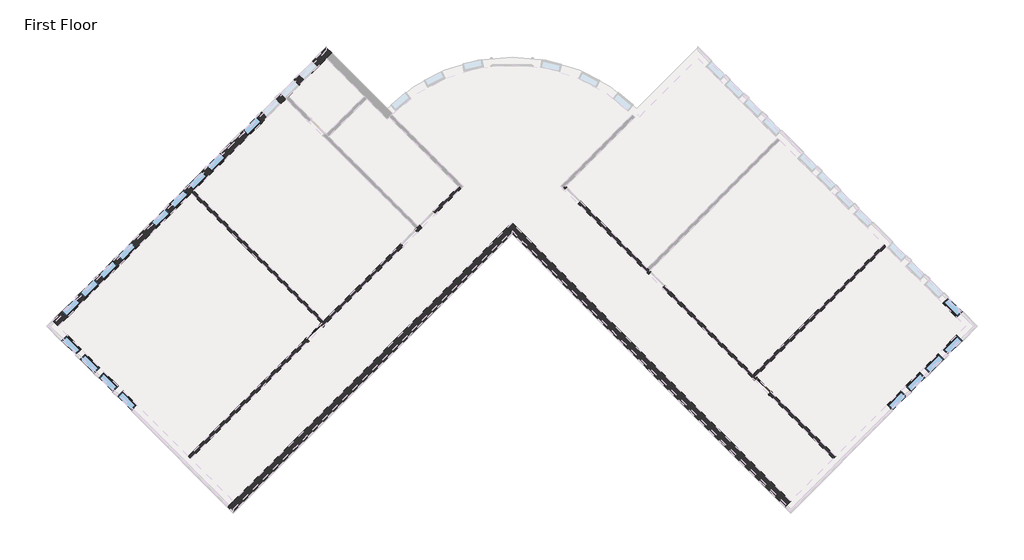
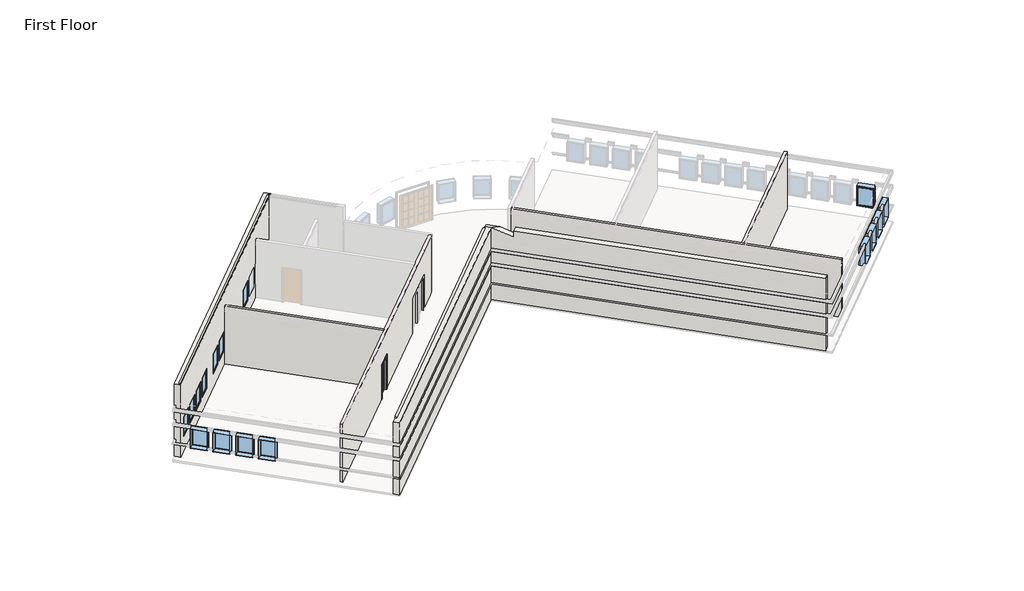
# One storey, part 1 of 3: 18 windows, 7 walls, 2 doors.
"""IFC4 building model written with IfcOpenShell, lengths in millimetres."""

from ifc_helpers import new_model, si_unit, origin, origin_with_axes, place, context, project, spatial, polyline, outline, extrude, faceted_brep, transform, mapped, element, save
from components import door_b81abb0e, door_5f5b55da, window_15c49d37, window_0e2fc6ce

model = new_model("IFC4")

# Units and contexts
model_context = context("Model", 3, world=origin())
ifc_project = project(units=[si_unit("LENGTHUNIT", "METRE", prefix="MILLI")], contexts=[model_context])

# Site, building, storey
site = spatial("IfcSite", under=ifc_project)
building = spatial("IfcBuilding", under=site)
storey = spatial("IfcBuildingStorey", under=building, Name="First Floor", Elevation=0.0)

# Doors
placement = place(None, origin())
door_shape = door_b81abb0e(model_context)
element("IfcDoor", 1, ObjectType="Single-Glass 1 : 36\" x 84\"", at=placement, inside=storey, context=model_context, shape_type="MappedRepresentation", body=[
    mapped(door_shape, transform((-12027.7718255, -1647.4849877, 0.0), x_axis=(0.7071067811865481, 0.7071067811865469, 0.0), y_axis=(-0.7071067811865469, 0.7071067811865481, 0.0), z_axis=(0.0, 0.0, 1.0))),
])
door_2_shape = door_5f5b55da(model_context)
element("IfcDoor", 2, ObjectType="Single-Glass 1 : 36\" x 84\"", at=placement, inside=storey, context=model_context, shape_type="MappedRepresentation", body=[
    mapped(door_2_shape, transform((8770.3835686, -4126.1534594, 0.0), x_axis=(-0.7071067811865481, 0.7071067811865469, 0.0), y_axis=(-0.7071067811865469, -0.7071067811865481, 0.0), z_axis=(0.0, 0.0, 1.0))),
])

# Walls
element("IfcWall", 3, ObjectType="Exterior - Split Face and CMU on Mtl. Stud", at=placement, inside=storey, context=model_context, shape_type="Brep", body=[
    faceted_brep([(10063.54045, -9480.6311716, 0.0), (-2868.0283643, 3450.9376427, 0.0), (-2868.0283643, 3450.9376427, 4454.525), (-2369.6241496, 2952.533428, 4454.525), (-1756.7216693, 2339.6309478, 4165.6), (-1756.7216693, 2339.6309478, 4572.0), (10063.54045, -9480.6311716, 4572.0), (-3117.2304717, 3201.7355354, 4572.0), (-3117.2304717, 3201.7355354, 0.0), (-2868.0283643, 2952.533428, 0.0), (9814.3383427, -9729.833279, 0.0), (9814.3383427, -9729.833279, 1016.0), (-2868.0283643, 2952.533428, 1016.0), (-2933.1352212, 3017.6402849, 1016.0), (-2933.1352212, 3017.6402849, 1085.85), (-2868.0283643, 2952.533428, 1085.85), (9814.3383427, -9729.833279, 1085.85), (9814.3383427, -9729.833279, 2133.6), (-2868.0283643, 2952.533428, 2133.6), (-2933.1352212, 3017.6402849, 2133.6), (-2933.1352212, 3017.6402849, 2336.8), (-2868.0283643, 2952.533428, 2336.8), (9814.3383427, -9729.833279, 2336.8), (9814.3383427, -9729.833279, 3048.0), (-2868.0283643, 2952.533428, 3048.0), (-2933.1352212, 3017.6402849, 3048.0), (-2933.1352212, 3017.6402849, 3251.2), (-2868.0283643, 2952.533428, 3251.2), (9814.3383427, -9729.833279, 3251.2), (9814.3383427, -9729.833279, 4572.0), (-2005.9237767, 2090.4288404, 4572.0), (-2005.9237767, 2090.4288404, 4165.6), (-2868.0283643, 2952.533428, 4572.0), (-3052.1236148, 3266.8423923, 0.0), (9879.4451996, -9664.7264221, 3251.2), (9879.4451996, -9664.7264221, 3048.0), (9879.4451996, -9664.7264221, 2336.8), (9879.4451996, -9664.7264221, 2133.6), (9879.4451996, -9664.7264221, 1085.85), (9879.4451996, -9664.7264221, 1016.0), (9879.4451996, -9664.7264221, 0.0), (-2868.0283643, 3082.7471418, 1085.85), (-2868.0283643, 3082.7471418, 1016.0), (-2868.0283643, 3082.7471418, 2133.6), (-2868.0283643, 3082.7471418, 2336.8), (-2868.0283643, 3082.7471418, 3048.0), (-2868.0283643, 3082.7471418, 3251.2)], [[[0, 1, 2, 3, 4, 5, 6]], [[7, 8, 9, 10, 11, 12, 13, 14, 15, 16, 17, 18, 19, 20, 21, 22, 23, 24, 25, 26, 27, 28, 29, 30, 31, 32]], [[2, 1, 33, 8, 7]], [[0, 6, 29, 28, 34, 35, 23, 22, 36, 37, 17, 16, 38, 39, 11, 10, 40]], [[29, 6, 5, 30]], [[30, 5, 4, 31]], [[31, 4, 3, 32]], [[2, 7, 32, 3]], [[1, 0, 40, 33]], [[40, 10, 9, 8, 33]], [[14, 41, 38, 16, 15]], [[39, 42, 13, 12, 11]], [[41, 42, 39, 38]], [[42, 41, 14, 13]], [[37, 43, 19, 18, 17]], [[20, 44, 36, 22, 21]], [[44, 43, 37, 36]], [[43, 44, 20, 19]], [[35, 45, 25, 24, 23]], [[26, 46, 34, 28, 27]], [[46, 45, 35, 34]], [[45, 46, 26, 25]]]),
])
element("IfcWall", 4, ObjectType="Exterior - Split Face and CMU on Mtl. Stud", at=placement, inside=storey, context=model_context, shape_type="Brep", body=[
    faceted_brep([(-3117.2304717, 3201.7355354, 0.0), (-15799.5971786, -9480.6311716, 0.0), (-16048.799286, -9729.833279, 0.0), (-16048.799286, -9729.833279, 1016.0), (-15983.6924291, -9664.7264221, 1016.0), (-15983.6924291, -9664.7264221, 1085.85), (-16048.799286, -9729.833279, 1085.85), (-16048.799286, -9729.833279, 2133.6), (-15983.6924291, -9664.7264221, 2133.6), (-15983.6924291, -9664.7264221, 2336.8), (-16048.799286, -9729.833279, 2336.8), (-16048.799286, -9729.833279, 3048.0), (-15983.6924291, -9664.7264221, 3048.0), (-15983.6924291, -9664.7264221, 3251.2), (-16048.799286, -9729.833279, 3251.2), (-16048.799286, -9729.833279, 4572.0), (-15799.5971786, -9480.6311716, 4572.0), (-3135.1909839, 3183.7750231, 4572.0), (-3117.2304717, 3201.7355354, 4572.0), (-15799.5971786, -9979.0353863, 0.0), (-2868.0283643, 2952.533428, 0.0), (-2868.0283643, 2952.533428, 1016.0), (-15799.5971786, -9979.0353863, 1016.0), (-15799.5971786, -9979.0353863, 1085.85), (-2868.0283643, 2952.533428, 1085.85), (-2868.0283643, 2952.533428, 2133.6), (-15799.5971786, -9979.0353863, 2133.6), (-15799.5971786, -9979.0353863, 2336.8), (-2868.0283643, 2952.533428, 2336.8), (-2868.0283643, 2952.533428, 3048.0), (-15799.5971786, -9979.0353863, 3048.0), (-15799.5971786, -9979.0353863, 4572.0), (-15799.5971786, -9979.0353863, 3251.2), (-2868.0283643, 2952.533428, 3251.2), (-2868.0283643, 2952.533428, 4572.0), (-2885.9888765, 2934.5729158, 4572.0), (-15864.7040355, -9913.9285294, 0.0), (-2933.1352212, 3017.6402849, 3251.2), (-2933.1352212, 3017.6402849, 3048.0), (-2933.1352212, 3017.6402849, 2336.8), (-2933.1352212, 3017.6402849, 2133.6), (-2933.1352212, 3017.6402849, 1085.85), (-2933.1352212, 3017.6402849, 1016.0), (-2933.1352212, 3017.6402849, 0.0), (-15799.5971786, -9848.8216726, 1085.85), (-15799.5971786, -9848.8216726, 1016.0), (-15799.5971786, -9848.8216726, 2133.6), (-15799.5971786, -9848.8216726, 2336.8), (-15799.5971786, -9848.8216726, 3048.0), (-15799.5971786, -9848.8216726, 3251.2)], [[[0, 1, 2, 3, 4, 5, 6, 7, 8, 9, 10, 11, 12, 13, 14, 15, 16, 17, 18]], [[19, 20, 21, 22]], [[23, 24, 25, 26]], [[27, 28, 29, 30]], [[31, 32, 33, 34, 35]], [[2, 36, 19, 22, 3]], [[6, 23, 26, 7]], [[10, 27, 30, 11]], [[15, 14, 32, 31]], [[0, 18, 34, 33, 37, 38, 29, 28, 39, 40, 25, 24, 41, 42, 21, 20, 43]], [[2, 1, 0, 43, 36]], [[43, 20, 19, 36]], [[5, 44, 41, 24, 23, 6]], [[42, 45, 4, 3, 22, 21]], [[44, 45, 42, 41]], [[45, 44, 5, 4]], [[40, 46, 8, 7, 26, 25]], [[9, 47, 39, 28, 27, 10]], [[47, 46, 40, 39]], [[46, 47, 9, 8]], [[38, 48, 12, 11, 30, 29]], [[13, 49, 37, 33, 32, 14]], [[49, 48, 38, 37]], [[48, 49, 13, 12]], [[15, 31, 35, 34, 18, 17, 16]]]),
    faceted_brep([(-15799.5971786, -9480.6311716, 4689.475), (-3366.432579, 2952.533428, 4689.475), (-3260.200231, 3058.765776, 4639.3965909), (-15799.5971786, -9480.6311716, 4639.3965909), (-15874.9878772, -9556.0218702, 4653.9354839), (-3215.6511819, 2952.533428, 4653.9354839), (-15799.5971786, -9631.4125687, 4653.9354839)], [[[0, 1, 2, 3, 4]], [[2, 1, 5]], [[1, 0, 6, 5]], [[0, 4, 6]], [[6, 3, 2, 5]], [[3, 6, 4]]]),
])
element("IfcWall", 5, ObjectType="Exterior - Split Face and CMU on Mtl. Stud", at=placement, inside=storey, context=model_context, shape_type="Brep", body=[
    faceted_brep([(-23922.2388402, -1357.9895101, 0.0), (-17743.7048466, 4820.5444835, 0.0), (-17633.6967091, 4930.552621, 0.0), (-13359.2125777, 9205.0367523, 0.0), (-13249.2044403, 9315.0448898, 0.0), (-11489.0742405, 11075.1750895, 0.0), (-11239.8721332, 11324.3771969, 0.0), (-11239.8721332, 11324.3771969, 1016.0), (-11304.9789901, 11259.27034, 1016.0), (-11304.9789901, 11259.27034, 1085.85), (-11239.8721332, 11324.3771969, 1085.85), (-11239.8721332, 11324.3771969, 2133.6), (-11304.9789901, 11259.27034, 2133.6), (-11304.9789901, 11259.27034, 2336.8), (-11239.8721332, 11324.3771969, 2336.8), (-11239.8721332, 11324.3771969, 3048.0), (-11304.9789901, 11259.27034, 3048.0), (-11304.9789901, 11259.27034, 3251.2), (-11239.8721332, 11324.3771969, 3251.2), (-11239.8721332, 11324.3771969, 4572.0), (-11489.0742405, 11075.1750895, 4572.0), (-23922.2388402, -1357.9895101, 4572.0), (-23508.0245266, -943.7751965, 914.4), (-23508.0245266, -943.7751965, 2133.6), (-22861.4460859, -297.1967558, 2133.6), (-22861.4460859, -297.1967558, 914.4), (-22645.9199389, -81.6706089, 914.4), (-22645.9199389, -81.6706089, 2133.6), (-21999.3414982, 564.9078318, 2133.6), (-21999.3414982, 564.9078318, 914.4), (-20921.7107637, 1642.5385664, 914.4), (-20921.7107637, 1642.5385664, 2133.6), (-20275.132323, 2289.1170071, 2133.6), (-20275.132323, 2289.1170071, 914.4), (-21783.8153513, 780.4339787, 914.4), (-21783.8153513, 780.4339787, 2133.6), (-21137.2369106, 1427.0124195, 2133.6), (-21137.2369106, 1427.0124195, 914.4), (-11869.3770291, 10694.8723009, 2133.6), (-11869.3770291, 10694.8723009, 914.4), (-12515.9554698, 10048.2938602, 914.4), (-12515.9554698, 10048.2938602, 2133.6), (-12731.4816167, 9832.7677133, 2133.6), (-12731.4816167, 9832.7677133, 914.4), (-13378.0600575, 9186.1892726, 914.4), (-13378.0600575, 9186.1892726, 2133.6), (-13593.5862044, 8970.6631257, 2133.6), (-13593.5862044, 8970.6631257, 914.4), (-14240.1646451, 8324.084685, 914.4), (-14240.1646451, 8324.084685, 2133.6), (-14455.690792, 8108.5585381, 2133.6), (-14455.690792, 8108.5585381, 914.4), (-15102.2692327, 7461.9800974, 914.4), (-15102.2692327, 7461.9800974, 2133.6), (-19359.6176228, 3204.6317073, 914.4), (-19359.6176228, 3204.6317073, 2133.6), (-18713.0391821, 3851.210148, 2133.6), (-18713.0391821, 3851.210148, 914.4), (-18497.5130352, 4066.7362949, 914.4), (-18497.5130352, 4066.7362949, 2133.6), (-17850.9345944, 4713.3147356, 2133.6), (-17850.9345944, 4713.3147356, 914.4), (-17635.4084475, 4928.8408825, 914.4), (-17635.4084475, 4928.8408825, 2133.6), (-16988.8300068, 5575.4193232, 2133.6), (-16988.8300068, 5575.4193232, 914.4), (-16773.3038599, 5790.9454701, 914.4), (-16773.3038599, 5790.9454701, 2133.6), (-16126.7254192, 6437.5239109, 2133.6), (-16126.7254192, 6437.5239109, 914.4), (-11489.0742405, 11573.5793042, 0.0), (-24171.4409475, -1108.7874027, 0.0), (-24171.4409475, -1108.7874027, 1016.0), (-23757.2266339, -694.5730891, 1016.0), (-23757.2266339, -694.5730891, 914.4), (-23110.6481932, -47.9946484, 914.4), (-23110.6481932, -47.9946484, 1016.0), (-22895.1220463, 167.5314985, 1016.0), (-22895.1220463, 167.5314985, 914.4), (-22248.5436056, 814.1099392, 914.4), (-22248.5436056, 814.1099392, 1016.0), (-22033.0174587, 1029.6360861, 1016.0), (-22033.0174587, 1029.6360861, 914.4), (-21386.439018, 1676.2145268, 914.4), (-21386.439018, 1676.2145268, 1016.0), (-21170.9128711, 1891.7406737, 1016.0), (-21170.9128711, 1891.7406737, 914.4), (-20524.3344303, 2538.3191144, 914.4), (-20524.3344303, 2538.3191144, 1016.0), (-19608.8197301, 3453.8338146, 1016.0), (-19608.8197301, 3453.8338146, 914.4), (-18962.2412894, 4100.4122553, 914.4), (-18962.2412894, 4100.4122553, 1016.0), (-18746.7151425, 4315.9384023, 1016.0), (-18746.7151425, 4315.9384023, 914.4), (-18100.1367018, 4962.516843, 914.4), (-18100.1367018, 4962.516843, 1016.0), (-17884.6105549, 5178.0429899, 1016.0), (-17884.6105549, 5178.0429899, 914.4), (-17238.0321142, 5824.6214306, 914.4), (-17238.0321142, 5824.6214306, 1016.0), (-17022.5059673, 6040.1475775, 1016.0), (-17022.5059673, 6040.1475775, 914.4), (-16375.9275266, 6686.7260182, 914.4), (-16375.9275266, 6686.7260182, 1016.0), (-15351.4713401, 7711.1822047, 1016.0), (-15351.4713401, 7711.1822047, 914.4), (-14704.8928993, 8357.7606454, 914.4), (-14704.8928993, 8357.7606454, 1016.0), (-14489.3667524, 8573.2867923, 1016.0), (-14489.3667524, 8573.2867923, 914.4), (-13842.7883117, 9219.8652331, 914.4), (-13842.7883117, 9219.8652331, 1016.0), (-13627.2621648, 9435.39138, 1016.0), (-13627.2621648, 9435.39138, 914.4), (-12980.6837241, 10081.9698207, 914.4), (-12980.6837241, 10081.9698207, 1016.0), (-12765.1575772, 10297.4959676, 1016.0), (-12765.1575772, 10297.4959676, 914.4), (-12118.5791365, 10944.0744083, 914.4), (-12118.5791365, 10944.0744083, 1016.0), (-11489.0742405, 11573.5793042, 1016.0), (-23110.6481932, -47.9946484, 2133.6), (-23757.2266339, -694.5730891, 2133.6), (-23757.2266339, -694.5730891, 2336.8), (-24171.4409475, -1108.7874027, 2336.8), (-24171.4409475, -1108.7874027, 3048.0), (-11489.0742405, 11573.5793042, 3048.0), (-11489.0742405, 11573.5793042, 2336.8), (-12118.5791365, 10944.0744083, 2336.8), (-12118.5791365, 10944.0744083, 2133.6), (-12765.1575772, 10297.4959676, 2133.6), (-12765.1575772, 10297.4959676, 2336.8), (-12980.6837241, 10081.9698207, 2336.8), (-12980.6837241, 10081.9698207, 2133.6), (-13627.2621648, 9435.39138, 2133.6), (-13627.2621648, 9435.39138, 2336.8), (-13842.7883117, 9219.8652331, 2336.8), (-13842.7883117, 9219.8652331, 2133.6), (-14489.3667524, 8573.2867923, 2133.6), (-14489.3667524, 8573.2867923, 2336.8), (-14704.8928993, 8357.7606454, 2336.8), (-14704.8928993, 8357.7606454, 2133.6), (-15351.4713401, 7711.1822047, 2133.6), (-15351.4713401, 7711.1822047, 2336.8), (-16375.9275266, 6686.7260182, 2336.8), (-16375.9275266, 6686.7260182, 2133.6), (-17022.5059673, 6040.1475775, 2133.6), (-17022.5059673, 6040.1475775, 2336.8), (-17238.0321142, 5824.6214306, 2336.8), (-17238.0321142, 5824.6214306, 2133.6), (-17884.6105549, 5178.0429899, 2133.6), (-17884.6105549, 5178.0429899, 2336.8), (-18100.1367018, 4962.516843, 2336.8), (-18100.1367018, 4962.516843, 2133.6), (-18746.7151425, 4315.9384023, 2133.6), (-18746.7151425, 4315.9384023, 2336.8), (-18962.2412894, 4100.4122553, 2336.8), (-18962.2412894, 4100.4122553, 2133.6), (-19608.8197301, 3453.8338146, 2133.6), (-19608.8197301, 3453.8338146, 2336.8), (-20524.3344303, 2538.3191144, 2336.8), (-20524.3344303, 2538.3191144, 2133.6), (-21170.9128711, 1891.7406737, 2133.6), (-21170.9128711, 1891.7406737, 2336.8), (-21386.439018, 1676.2145268, 2336.8), (-21386.439018, 1676.2145268, 2133.6), (-22033.0174587, 1029.6360861, 2133.6), (-22033.0174587, 1029.6360861, 2336.8), (-22248.5436056, 814.1099392, 2336.8), (-22248.5436056, 814.1099392, 2133.6), (-22895.1220463, 167.5314985, 2133.6), (-22895.1220463, 167.5314985, 2336.8), (-23110.6481932, -47.9946484, 2336.8), (-23757.2266339, -694.5730891, 1085.85), (-24171.4409475, -1108.7874027, 1085.85), (-24171.4409475, -1108.7874027, 2133.6), (-23110.6481932, -47.9946484, 1085.85), (-22895.1220463, 167.5314985, 1085.85), (-22248.5436056, 814.1099392, 1085.85), (-22033.0174587, 1029.6360861, 1085.85), (-21170.9128711, 1891.7406737, 1085.85), (-21386.439018, 1676.2145268, 1085.85), (-20524.3344303, 2538.3191144, 1085.85), (-19608.8197301, 3453.8338146, 1085.85), (-12765.1575772, 10297.4959676, 1085.85), (-12980.6837241, 10081.9698207, 1085.85), (-12118.5791365, 10944.0744083, 1085.85), (-11489.0742405, 11573.5793042, 2133.6), (-11489.0742405, 11573.5793042, 1085.85), (-13627.2621648, 9435.39138, 1085.85), (-13842.7883117, 9219.8652331, 1085.85), (-14489.3667524, 8573.2867923, 1085.85), (-14704.8928993, 8357.7606454, 1085.85), (-15351.4713401, 7711.1822047, 1085.85), (-16375.9275266, 6686.7260182, 1085.85), (-18962.2412894, 4100.4122553, 1085.85), (-18746.7151425, 4315.9384023, 1085.85), (-18100.1367018, 4962.516843, 1085.85), (-17884.6105549, 5178.0429899, 1085.85), (-17238.0321142, 5824.6214306, 1085.85), (-17022.5059673, 6040.1475775, 1085.85), (-11489.0742405, 11573.5793042, 4572.0), (-11489.0742405, 11573.5793042, 3251.2), (-24171.4409475, -1108.7874027, 3251.2), (-24171.4409475, -1108.7874027, 4572.0), (-11423.9673837, 11508.4724474, 0.0), (-24106.3340906, -1173.8942596, 0.0), (-24106.3340906, -1173.8942596, 3251.2), (-24106.3340906, -1173.8942596, 3048.0), (-24106.3340906, -1173.8942596, 2336.8), (-24106.3340906, -1173.8942596, 2133.6), (-24106.3340906, -1173.8942596, 1085.85), (-24106.3340906, -1173.8942596, 1016.0), (-23692.119777, -759.679946, 1016.0), (-23692.119777, -759.679946, 1085.85), (-23692.119777, -759.679946, 2133.6), (-23045.5413363, -113.1015053, 2133.6), (-23045.5413363, -113.1015053, 1085.85), (-23045.5413363, -113.1015053, 1016.0), (-22830.0151894, 102.4246416, 1016.0), (-22830.0151894, 102.4246416, 1085.85), (-22830.0151894, 102.4246416, 2133.6), (-22183.4367487, 749.0030823, 2133.6), (-22183.4367487, 749.0030823, 1085.85), (-22183.4367487, 749.0030823, 1016.0), (-21105.8060142, 1826.6338168, 1016.0), (-21105.8060142, 1826.6338168, 1085.85), (-21105.8060142, 1826.6338168, 2133.6), (-20459.2275735, 2473.2122576, 2133.6), (-20459.2275735, 2473.2122576, 1085.85), (-20459.2275735, 2473.2122576, 1016.0), (-21967.9106018, 964.5292292, 1016.0), (-21967.9106018, 964.5292292, 1085.85), (-21967.9106018, 964.5292292, 2133.6), (-21321.3321611, 1611.1076699, 2133.6), (-21321.3321611, 1611.1076699, 1085.85), (-21321.3321611, 1611.1076699, 1016.0), (-12053.4722796, 10878.9675514, 2133.6), (-12053.4722796, 10878.9675514, 1085.85), (-12053.4722796, 10878.9675514, 1016.0), (-12700.0507203, 10232.3891107, 1016.0), (-12700.0507203, 10232.3891107, 1085.85), (-12700.0507203, 10232.3891107, 2133.6), (-12915.5768672, 10016.8629638, 2133.6), (-12915.5768672, 10016.8629638, 1085.85), (-12915.5768672, 10016.8629638, 1016.0), (-13562.1553079, 9370.2845231, 1016.0), (-13562.1553079, 9370.2845231, 1085.85), (-13562.1553079, 9370.2845231, 2133.6), (-13777.6814548, 9154.7583762, 2133.6), (-13777.6814548, 9154.7583762, 1085.85), (-13777.6814548, 9154.7583762, 1016.0), (-14424.2598956, 8508.1799355, 1016.0), (-14424.2598956, 8508.1799355, 1085.85), (-14424.2598956, 8508.1799355, 2133.6), (-14639.7860425, 8292.6537886, 2133.6), (-14639.7860425, 8292.6537886, 1085.85), (-14639.7860425, 8292.6537886, 1016.0), (-15286.3644832, 7646.0753478, 1016.0), (-15286.3644832, 7646.0753478, 1085.85), (-15286.3644832, 7646.0753478, 2133.6), (-19543.7128733, 3388.7269578, 1016.0), (-19543.7128733, 3388.7269578, 1085.85), (-19543.7128733, 3388.7269578, 2133.6), (-18897.1344326, 4035.3053985, 2133.6), (-18897.1344326, 4035.3053985, 1085.85), (-18897.1344326, 4035.3053985, 1016.0), (-18681.6082856, 4250.8315454, 1016.0), (-18681.6082856, 4250.8315454, 1085.85), (-18681.6082856, 4250.8315454, 2133.6), (-18035.0298449, 4897.4099861, 2133.6), (-18035.0298449, 4897.4099861, 1085.85), (-18035.0298449, 4897.4099861, 1016.0), (-17819.503698, 5112.936133, 1016.0), (-17819.503698, 5112.936133, 1085.85), (-17819.503698, 5112.936133, 2133.6), (-17172.9252573, 5759.5145737, 2133.6), (-17172.9252573, 5759.5145737, 1085.85), (-17172.9252573, 5759.5145737, 1016.0), (-16957.3991104, 5975.0407206, 1016.0), (-16957.3991104, 5975.0407206, 1085.85), (-16957.3991104, 5975.0407206, 2133.6), (-16310.8206697, 6621.6191613, 2133.6), (-16310.8206697, 6621.6191613, 1085.85), (-16310.8206697, 6621.6191613, 1016.0), (-11489.0742405, 11443.3655905, 1085.85), (-11489.0742405, 11443.3655905, 1016.0), (-23692.119777, -759.679946, 2133.6), (-23692.119777, -759.679946, 2336.8), (-23045.5413363, -113.1015053, 2133.6), (-23045.5413363, -113.1015053, 2336.8), (-22830.0151894, 102.4246416, 2336.8), (-22830.0151894, 102.4246416, 2133.6), (-22183.4367487, 749.0030823, 2133.6), (-22183.4367487, 749.0030823, 2336.8), (-21967.9106018, 964.5292292, 2336.8), (-21967.9106018, 964.5292292, 2133.6), (-21321.3321611, 1611.1076699, 2133.6), (-21321.3321611, 1611.1076699, 2336.8), (-21105.8060142, 1826.6338168, 2336.8), (-21105.8060142, 1826.6338168, 2133.6), (-20459.2275735, 2473.2122576, 2133.6), (-20459.2275735, 2473.2122576, 2336.8), (-19543.7128733, 3388.7269578, 2336.8), (-19543.7128733, 3388.7269578, 2133.6), (-18897.1344326, 4035.3053985, 2133.6), (-18897.1344326, 4035.3053985, 2336.8), (-18681.6082856, 4250.8315454, 2336.8), (-18681.6082856, 4250.8315454, 2133.6), (-18035.0298449, 4897.4099861, 2133.6), (-18035.0298449, 4897.4099861, 2336.8), (-17819.503698, 5112.936133, 2336.8), (-17819.503698, 5112.936133, 2133.6), (-17172.9252573, 5759.5145737, 2133.6), (-17172.9252573, 5759.5145737, 2336.8), (-16957.3991104, 5975.0407206, 2336.8), (-16957.3991104, 5975.0407206, 2133.6), (-16310.8206697, 6621.6191613, 2133.6), (-16310.8206697, 6621.6191613, 2336.8), (-15286.3644832, 7646.0753478, 2336.8), (-15286.3644832, 7646.0753478, 2133.6), (-14639.7860425, 8292.6537886, 2133.6), (-14639.7860425, 8292.6537886, 2336.8), (-14424.2598956, 8508.1799355, 2336.8), (-14424.2598956, 8508.1799355, 2133.6), (-13777.6814548, 9154.7583762, 2133.6), (-13777.6814548, 9154.7583762, 2336.8), (-13562.1553079, 9370.2845231, 2336.8), (-13562.1553079, 9370.2845231, 2133.6), (-12915.5768672, 10016.8629638, 2133.6), (-12915.5768672, 10016.8629638, 2336.8), (-12700.0507203, 10232.3891107, 2336.8), (-12700.0507203, 10232.3891107, 2133.6), (-12053.4722796, 10878.9675514, 2133.6), (-12053.4722796, 10878.9675514, 2336.8), (-11489.0742405, 11443.3655905, 2133.6), (-11489.0742405, 11443.3655905, 2336.8), (-11489.0742405, 11443.3655905, 3048.0), (-11489.0742405, 11443.3655905, 3251.2)], [[[0, 1, 2, 3, 4, 5, 6, 7, 8, 9, 10, 11, 12, 13, 14, 15, 16, 17, 18, 19, 20, 21], [22, 23, 24, 25], [26, 27, 28, 29], [30, 31, 32, 33], [34, 35, 36, 37], [38, 39, 40, 41], [42, 43, 44, 45], [46, 47, 48, 49], [50, 51, 52, 53], [54, 55, 56, 57], [58, 59, 60, 61], [62, 63, 64, 65], [66, 67, 68, 69]], [[70, 71, 72, 73, 74, 75, 76, 77, 78, 79, 80, 81, 82, 83, 84, 85, 86, 87, 88, 89, 90, 91, 92, 93, 94, 95, 96, 97, 98, 99, 100, 101, 102, 103, 104, 105, 106, 107, 108, 109, 110, 111, 112, 113, 114, 115, 116, 117, 118, 119, 120, 121]], [[122, 123, 124, 125, 126, 127, 128, 129, 130, 131, 132, 133, 134, 135, 136, 137, 138, 139, 140, 141, 142, 143, 144, 145, 146, 147, 148, 149, 150, 151, 152, 153, 154, 155, 156, 157, 158, 159, 160, 161, 162, 163, 164, 165, 166, 167, 168, 169, 170, 171, 172, 173]], [[123, 174, 175, 176]], [[177, 122, 171, 178]], [[179, 170, 167, 180]], [[163, 181, 182, 166]], [[183, 162, 159, 184]], [[131, 185, 186, 134]], [[187, 130, 188, 189]], [[135, 190, 191, 138]], [[139, 192, 193, 142]], [[143, 194, 195, 146]], [[196, 158, 155, 197]], [[198, 154, 151, 199]], [[200, 150, 147, 201]], [[202, 203, 204, 205]], [[6, 206, 70, 121, 7]], [[10, 189, 188, 11]], [[14, 128, 127, 15]], [[19, 18, 203, 202]], [[207, 0, 21, 205, 204, 208, 209, 126, 125, 210, 211, 176, 175, 212, 213, 72, 71]], [[6, 5, 4, 3, 2, 1, 0, 207, 206]], [[207, 71, 70, 206]], [[23, 22, 74, 73, 214, 215, 174, 123, 216]], [[75, 74, 22, 25]], [[25, 24, 217, 122, 177, 218, 219, 76, 75]], [[123, 122, 217, 24, 23, 216]], [[27, 26, 78, 77, 220, 221, 178, 171, 222]], [[79, 78, 26, 29]], [[29, 28, 223, 170, 179, 224, 225, 80, 79]], [[171, 170, 223, 28, 27, 222]], [[31, 30, 86, 85, 226, 227, 181, 163, 228]], [[87, 86, 30, 33]], [[33, 32, 229, 162, 183, 230, 231, 88, 87]], [[163, 162, 229, 32, 31, 228]], [[35, 34, 82, 81, 232, 233, 180, 167, 234]], [[83, 82, 34, 37]], [[37, 36, 235, 166, 182, 236, 237, 84, 83]], [[167, 166, 235, 36, 35, 234]], [[39, 38, 238, 130, 187, 239, 240, 120, 119]], [[40, 39, 119, 118]], [[41, 40, 118, 117, 241, 242, 185, 131, 243]], [[38, 41, 243, 131, 130, 238]], [[43, 42, 244, 134, 186, 245, 246, 116, 115]], [[44, 43, 115, 114]], [[45, 44, 114, 113, 247, 248, 190, 135, 249]], [[42, 45, 249, 135, 134, 244]], [[47, 46, 250, 138, 191, 251, 252, 112, 111]], [[48, 47, 111, 110]], [[49, 48, 110, 109, 253, 254, 192, 139, 255]], [[46, 49, 255, 139, 138, 250]], [[51, 50, 256, 142, 193, 257, 258, 108, 107]], [[52, 51, 107, 106]], [[53, 52, 106, 105, 259, 260, 194, 143, 261]], [[50, 53, 261, 143, 142, 256]], [[55, 54, 90, 89, 262, 263, 184, 159, 264]], [[91, 90, 54, 57]], [[57, 56, 265, 158, 196, 266, 267, 92, 91]], [[159, 158, 265, 56, 55, 264]], [[59, 58, 94, 93, 268, 269, 197, 155, 270]], [[95, 94, 58, 61]], [[61, 60, 271, 154, 198, 272, 273, 96, 95]], [[155, 154, 271, 60, 59, 270]], [[63, 62, 98, 97, 274, 275, 199, 151, 276]], [[99, 98, 62, 65]], [[65, 64, 277, 150, 200, 278, 279, 100, 99]], [[151, 150, 277, 64, 63, 276]], [[67, 66, 102, 101, 280, 281, 201, 147, 282]], [[103, 102, 66, 69]], [[69, 68, 283, 146, 195, 284, 285, 104, 103]], [[147, 146, 283, 68, 67, 282]], [[215, 212, 175, 174]], [[213, 214, 73, 72]], [[212, 215, 214, 213]], [[221, 218, 177, 178]], [[219, 220, 77, 76]], [[218, 221, 220, 219]], [[233, 224, 179, 180]], [[225, 232, 81, 80]], [[224, 233, 232, 225]], [[227, 236, 182, 181]], [[237, 226, 85, 84]], [[236, 227, 226, 237]], [[263, 230, 183, 184]], [[231, 262, 89, 88]], [[230, 263, 262, 231]], [[269, 266, 196, 197]], [[267, 268, 93, 92]], [[266, 269, 268, 267]], [[275, 272, 198, 199]], [[273, 274, 97, 96]], [[272, 275, 274, 273]], [[281, 278, 200, 201]], [[279, 280, 101, 100]], [[278, 281, 280, 279]], [[260, 284, 195, 194]], [[285, 259, 105, 104]], [[284, 260, 259, 285]], [[254, 257, 193, 192]], [[258, 253, 109, 108]], [[257, 254, 253, 258]], [[248, 251, 191, 190]], [[252, 247, 113, 112]], [[251, 248, 247, 252]], [[242, 245, 186, 185]], [[246, 241, 117, 116]], [[245, 242, 241, 246]], [[286, 239, 187, 189, 10, 9]], [[240, 287, 8, 7, 121, 120]], [[239, 286, 287, 240]], [[287, 286, 9, 8]], [[288, 123, 176, 211]], [[124, 289, 210, 125]], [[123, 288, 289, 124]], [[289, 288, 211, 210]], [[290, 122, 173, 291]], [[292, 172, 171, 293]], [[122, 290, 293, 171]], [[290, 291, 292, 293]], [[291, 173, 172, 292]], [[294, 170, 169, 295]], [[296, 168, 167, 297]], [[170, 294, 297, 167]], [[294, 295, 296, 297]], [[295, 169, 168, 296]], [[298, 166, 165, 299]], [[300, 164, 163, 301]], [[166, 298, 301, 163]], [[298, 299, 300, 301]], [[299, 165, 164, 300]], [[302, 162, 161, 303]], [[304, 160, 159, 305]], [[162, 302, 305, 159]], [[302, 303, 304, 305]], [[303, 161, 160, 304]], [[306, 158, 157, 307]], [[308, 156, 155, 309]], [[158, 306, 309, 155]], [[306, 307, 308, 309]], [[307, 157, 156, 308]], [[310, 154, 153, 311]], [[312, 152, 151, 313]], [[154, 310, 313, 151]], [[310, 311, 312, 313]], [[311, 153, 152, 312]], [[314, 150, 149, 315]], [[316, 148, 147, 317]], [[150, 314, 317, 147]], [[314, 315, 316, 317]], [[315, 149, 148, 316]], [[318, 146, 145, 319]], [[320, 144, 143, 321]], [[146, 318, 321, 143]], [[318, 319, 320, 321]], [[319, 145, 144, 320]], [[322, 142, 141, 323]], [[324, 140, 139, 325]], [[142, 322, 325, 139]], [[322, 323, 324, 325]], [[323, 141, 140, 324]], [[326, 138, 137, 327]], [[328, 136, 135, 329]], [[138, 326, 329, 135]], [[326, 327, 328, 329]], [[327, 137, 136, 328]], [[330, 134, 133, 331]], [[332, 132, 131, 333]], [[134, 330, 333, 131]], [[330, 331, 332, 333]], [[331, 133, 132, 332]], [[334, 130, 129, 335]], [[130, 334, 336, 12, 11, 188]], [[334, 335, 337, 336]], [[335, 129, 128, 14, 13, 337]], [[336, 337, 13, 12]], [[209, 338, 16, 15, 127, 126]], [[17, 339, 208, 204, 203, 18]], [[339, 338, 209, 208]], [[338, 339, 17, 16]], [[21, 20, 19, 202, 205]]]),
    faceted_brep([(-11489.0742405, 11075.1750895, 4689.475), (-23922.2388402, -1357.9895101, 4689.475), (-23922.2388402, -1357.9895101, 4639.3965909), (-11489.0742405, 11075.1750895, 4639.3965909), (-11413.683542, 11150.5657881, 4653.9354839), (-23997.6295387, -1282.5988115, 4653.9354839), (-11489.0742405, 11225.9564867, 4653.9354839)], [[[0, 1, 2, 3, 4]], [[2, 1, 5]], [[1, 0, 6, 5]], [[0, 4, 6]], [[6, 3, 2, 5]], [[3, 6, 4]]]),
])
element("IfcWall", 6, ObjectType="Interior - 6 1/8\" Partition (2-hr)", at=placement, inside=storey, context=model_context, shape_type="Brep", body=[
    faceted_brep([(-7264.9862676, 3005.2924327, 0.0), (-7049.4601207, 3220.8185796, 0.0), (-7049.4601207, 3220.8185796, 2133.6), (-6402.88168, 3867.3970204, 2133.6), (-6402.88168, 3867.3970204, 0.0), (-5238.5804157, 5031.6982846, 0.0), (-5238.5804157, 5031.6982846, 3657.6), (-17775.2535253, -7504.974825, 3657.6), (-17775.2535253, -7504.974825, 0.0), (-12296.0569771, -2025.7782768, 0.0), (-12296.0569771, -2025.7782768, 2133.6), (-11649.4785364, -1379.1998361, 2133.6), (-11649.4785364, -1379.1998361, 0.0), (-7911.5647083, 2358.713992, 0.0), (-7911.5647083, 2358.713992, 2133.6), (-7264.9862676, 3005.2924327, 2133.6), (-7159.4682582, 3330.8267171, 2133.6), (-7159.4682582, 3330.8267171, 0.0), (-7212.2272629, 3278.0677124, 0.0), (-7322.2354004, 3168.0595749, 0.0), (-7374.9944051, 3115.3005702, 0.0), (-7374.9944051, 3115.3005702, 2133.6), (-8021.5728458, 2468.7221295, 2133.6), (-8021.5728458, 2468.7221295, 0.0), (-11596.7195317, -1106.4245564, 0.0), (-11706.7276692, -1216.4326939, 0.0), (-11759.4866739, -1269.1916986, 0.0), (-11759.4866739, -1269.1916986, 2133.6), (-12406.0651146, -1915.7701393, 2133.6), (-12406.0651146, -1915.7701393, 0.0), (-17885.2616628, -7394.9666875, 0.0), (-17885.2616628, -7394.9666875, 3657.6), (-11706.7276692, -1216.4326939, 3657.6), (-11596.7195317, -1106.4245564, 3657.6), (-7322.2354004, 3168.0595749, 3657.6), (-7212.2272629, 3278.0677124, 3657.6), (-5348.5885532, 5141.7064221, 3657.6), (-5348.5885532, 5141.7064221, 0.0), (-6512.8898174, 3977.4051578, 0.0), (-6512.8898174, 3977.4051578, 2133.6)], [[[0, 1, 2, 3, 4, 5, 6, 7, 8, 9, 10, 11, 12, 13, 14, 15]], [[16, 17, 18, 19, 20, 21, 22, 23, 24, 25, 26, 27, 28, 29, 30, 31, 32, 33, 34, 35, 36, 37, 38, 39]], [[20, 19, 18, 17, 1, 0]], [[9, 8, 30, 29]], [[13, 12, 26, 25, 24, 23]], [[38, 37, 5, 4]], [[7, 6, 36, 35, 34, 33, 32, 31]], [[8, 7, 31, 30]], [[6, 5, 37, 36]], [[27, 26, 12, 11]], [[28, 27, 11, 10]], [[29, 28, 10, 9]], [[21, 20, 0, 15]], [[22, 21, 15, 14]], [[23, 22, 14, 13]], [[2, 1, 17, 16]], [[3, 2, 16, 39]], [[4, 3, 39, 38]]]),
])
element("IfcWall", 7, ObjectType="Interior - 6 1/8\" Partition (2-hr)", at=placement, inside=storey, context=model_context, shape_type="SweptSolid", body=[
    extrude(outline(polyline([(-17633.6967091, 4930.552621), (-11596.7195317, -1106.4245564), (-11706.7276692, -1216.4326939), (-17743.7048466, 4820.5444835), (-17633.6967091, 4930.552621)])), origin_with_axes(), (0.0, 0.0, 1.0), 3657.6),
])
element("IfcWall", 8, ObjectType="Interior - 6 1/8\" Partition (2-hr)", at=placement, inside=storey, context=model_context, shape_type="Brep", body=[
    faceted_brep([(8502.098417, -3747.8601703, 2133.6), (8502.098417, -3747.8601703, 0.0), (8449.3394123, -3695.1011656, 0.0), (8339.3312748, -3585.0930281, 0.0), (4225.2514393, 528.9868073, 0.0), (4225.2514393, 528.9868073, 2133.6), (3578.6729986, 1175.5652481, 2133.6), (3578.6729986, 1175.5652481, 0.0), (3525.9139939, 1228.3242528, 0.0), (3415.9058564, 1338.3323903, 0.0), (311.86927, 4442.3689766, 0.0), (311.86927, 4442.3689766, 2133.6), (-334.7091707, 5088.9474174, 2133.6), (-334.7091707, 5088.9474174, 0.0), (-387.4681754, 5141.7064221, 0.0), (-387.4681754, 5141.7064221, 3657.6), (3415.9058564, 1338.3323903, 3657.6), (3525.9139939, 1228.3242528, 3657.6), (8339.3312748, -3585.0930281, 3657.6), (8449.3394123, -3695.1011656, 3657.6), (12149.2049342, -7394.9666875, 3657.6), (12149.2049342, -7394.9666875, 0.0), (9148.6768577, -4394.438611, 0.0), (9148.6768577, -4394.438611, 2133.6), (4115.2433018, 418.9786699, 0.0), (8392.0902795, -3857.8683078, 0.0), (8392.0902795, -3857.8683078, 2133.6), (9038.6687202, -4504.4467485, 2133.6), (9038.6687202, -4504.4467485, 0.0), (12039.1967967, -7504.974825, 0.0), (12039.1967967, -7504.974825, 3657.6), (-497.4763129, 5031.6982846, 3657.6), (-497.4763129, 5031.6982846, 0.0), (-444.7173082, 4978.9392799, 0.0), (-444.7173082, 4978.9392799, 2133.6), (201.8611325, 4332.3608392, 2133.6), (201.8611325, 4332.3608392, 0.0), (3468.6648611, 1065.5571106, 0.0), (3468.6648611, 1065.5571106, 2133.6), (4115.2433018, 418.9786699, 2133.6)], [[[0, 1, 2, 3, 4, 5, 6, 7, 8, 9, 10, 11, 12, 13, 14, 15, 16, 17, 18, 19, 20, 21, 22, 23]], [[24, 25, 26, 27, 28, 29, 30, 31, 32, 33, 34, 35, 36, 37, 38, 39]], [[14, 13, 33, 32]], [[10, 9, 8, 7, 37, 36]], [[4, 3, 2, 1, 25, 24]], [[22, 21, 29, 28]], [[20, 19, 18, 17, 16, 15, 31, 30]], [[15, 14, 32, 31]], [[21, 20, 30, 29]], [[34, 33, 13, 12]], [[35, 34, 12, 11]], [[36, 35, 11, 10]], [[38, 37, 7, 6]], [[39, 38, 6, 5]], [[24, 39, 5, 4]], [[26, 25, 1, 0]], [[27, 26, 0, 23]], [[28, 27, 23, 22]]]),
])
element("IfcWall", 9, ObjectType="Interior - 6 1/8\" Partition (2-hr)", at=placement, inside=storey, context=model_context, shape_type="SweptSolid", body=[
    extrude(outline(polyline([(8339.3312748, -3585.0930281), (14376.3084522, 2451.8841493), (14486.3165897, 2341.8760118), (8449.3394123, -3695.1011656), (8339.3312748, -3585.0930281)])), origin_with_axes(), (0.0, 0.0, 1.0), 3657.6),
])

# Windows
window_shape = window_15c49d37(model_context)
element("IfcWindow", 10, ObjectType="Fixed : 36\" x 48\"", at=placement, inside=storey, context=model_context, shape_type="MappedRepresentation", body=[
    mapped(window_shape, transform((-23336.2771283, -522.8256908, 0.0), x_axis=(-0.7071067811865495, -0.7071067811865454, 0.0), y_axis=(0.7071067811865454, -0.7071067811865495, 0.0), z_axis=(0.0, 0.0, 1.0))),
])
element("IfcWindow", 11, ObjectType="Fixed : 36\" x 48\"", at=placement, inside=storey, context=model_context, shape_type="MappedRepresentation", body=[
    mapped(window_shape, transform((-22474.1725406, 339.2788968, 0.0), x_axis=(-0.7071067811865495, -0.7071067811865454, 0.0), y_axis=(0.7071067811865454, -0.7071067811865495, 0.0), z_axis=(0.0, 0.0, 1.0))),
])
element("IfcWindow", 12, ObjectType="Fixed : 36\" x 48\"", at=placement, inside=storey, context=model_context, shape_type="MappedRepresentation", body=[
    mapped(window_shape, transform((-21612.067953, 1201.3834844, 0.0), x_axis=(-0.7071067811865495, -0.7071067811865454, 0.0), y_axis=(0.7071067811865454, -0.7071067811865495, 0.0), z_axis=(0.0, 0.0, 1.0))),
])
element("IfcWindow", 13, ObjectType="Fixed : 36\" x 48\"", at=placement, inside=storey, context=model_context, shape_type="MappedRepresentation", body=[
    mapped(window_shape, transform((-20749.9633654, 2063.488072, 0.0), x_axis=(-0.7071067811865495, -0.7071067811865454, 0.0), y_axis=(0.7071067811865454, -0.7071067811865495, 0.0), z_axis=(0.0, 0.0, 1.0))),
])
element("IfcWindow", 14, ObjectType="Fixed : 36\" x 48\"", at=placement, inside=storey, context=model_context, shape_type="MappedRepresentation", body=[
    mapped(window_shape, transform((-19187.8702245, 3625.5812129, 0.0), x_axis=(-0.7071067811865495, -0.7071067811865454, 0.0), y_axis=(0.7071067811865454, -0.7071067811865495, 0.0), z_axis=(0.0, 0.0, 1.0))),
])
element("IfcWindow", 15, ObjectType="Fixed : 36\" x 48\"", at=placement, inside=storey, context=model_context, shape_type="MappedRepresentation", body=[
    mapped(window_shape, transform((-18325.7656368, 4487.6858006, 0.0), x_axis=(-0.7071067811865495, -0.7071067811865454, 0.0), y_axis=(0.7071067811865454, -0.7071067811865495, 0.0), z_axis=(0.0, 0.0, 1.0))),
])
element("IfcWindow", 16, ObjectType="Fixed : 36\" x 48\"", at=placement, inside=storey, context=model_context, shape_type="MappedRepresentation", body=[
    mapped(window_shape, transform((-17463.6610492, 5349.7903882, 0.0), x_axis=(-0.7071067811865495, -0.7071067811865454, 0.0), y_axis=(0.7071067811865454, -0.7071067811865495, 0.0), z_axis=(0.0, 0.0, 1.0))),
])
element("IfcWindow", 17, ObjectType="Fixed : 36\" x 48\"", at=placement, inside=storey, context=model_context, shape_type="MappedRepresentation", body=[
    mapped(window_shape, transform((-16601.5564616, 6211.8949758, 0.0), x_axis=(-0.7071067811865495, -0.7071067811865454, 0.0), y_axis=(0.7071067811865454, -0.7071067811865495, 0.0), z_axis=(0.0, 0.0, 1.0))),
])
element("IfcWindow", 18, ObjectType="Fixed : 36\" x 48\"", at=placement, inside=storey, context=model_context, shape_type="MappedRepresentation", body=[
    mapped(window_shape, transform((17600.2203996, -2193.1533294, 0.0), x_axis=(0.7071067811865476, 0.7071067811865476, 0.0), y_axis=(-0.7071067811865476, 0.7071067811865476, 0.0), z_axis=(0.0, 0.0, 1.0))),
])
element("IfcWindow", 19, ObjectType="Fixed : 36\" x 48\"", at=placement, inside=storey, context=model_context, shape_type="MappedRepresentation", body=[
    mapped(window_shape, transform((16738.115812, -3055.257917, 0.0), x_axis=(0.7071067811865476, 0.7071067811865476, 0.0), y_axis=(-0.7071067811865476, 0.7071067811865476, 0.0), z_axis=(0.0, 0.0, 1.0))),
])
element("IfcWindow", 20, ObjectType="Fixed : 36\" x 48\"", at=placement, inside=storey, context=model_context, shape_type="MappedRepresentation", body=[
    mapped(window_shape, transform((15876.0112244, -3917.3625046, 0.0), x_axis=(0.7071067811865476, 0.7071067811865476, 0.0), y_axis=(-0.7071067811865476, 0.7071067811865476, 0.0), z_axis=(0.0, 0.0, 1.0))),
])
element("IfcWindow", 21, ObjectType="Fixed : 36\" x 48\"", at=placement, inside=storey, context=model_context, shape_type="MappedRepresentation", body=[
    mapped(window_shape, transform((15013.9066368, -4779.4670922, 0.0), x_axis=(0.7071067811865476, 0.7071067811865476, 0.0), y_axis=(-0.7071067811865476, 0.7071067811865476, 0.0), z_axis=(0.0, 0.0, 1.0))),
])
window_2_shape = window_0e2fc6ce(model_context)
element("IfcWindow", 22, ObjectType="Fixed : 36\" x 48\"", at=placement, inside=storey, context=model_context, shape_type="MappedRepresentation", body=[
    mapped(window_2_shape, transform((-14876.6402977, 7936.8111398, 0.0), x_axis=(0.7071067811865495, 0.7071067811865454, 0.0), y_axis=(-0.7071067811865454, 0.7071067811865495, 0.0), z_axis=(0.0, 0.0, 1.0))),
])
element("IfcWindow", 23, ObjectType="Fixed : 36\" x 48\"", at=placement, inside=storey, context=model_context, shape_type="MappedRepresentation", body=[
    mapped(window_2_shape, transform((-23336.2771283, -2193.1533294, 0.0), x_axis=(-0.7071067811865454, 0.7071067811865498, 0.0), y_axis=(-0.7071067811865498, -0.7071067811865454, 0.0), z_axis=(0.0, 0.0, 1.0))),
])
element("IfcWindow", 24, ObjectType="Fixed : 36\" x 48\"", at=placement, inside=storey, context=model_context, shape_type="MappedRepresentation", body=[
    mapped(window_2_shape, transform((-22474.1725406, -3055.257917, 0.0), x_axis=(-0.7071067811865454, 0.7071067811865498, 0.0), y_axis=(-0.7071067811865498, -0.7071067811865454, 0.0), z_axis=(0.0, 0.0, 1.0))),
])
element("IfcWindow", 25, ObjectType="Fixed : 36\" x 48\"", at=placement, inside=storey, context=model_context, shape_type="MappedRepresentation", body=[
    mapped(window_2_shape, transform((-21612.067953, -3917.3625046, 0.0), x_axis=(-0.7071067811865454, 0.7071067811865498, 0.0), y_axis=(-0.7071067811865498, -0.7071067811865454, 0.0), z_axis=(0.0, 0.0, 1.0))),
])
element("IfcWindow", 26, ObjectType="Fixed : 36\" x 48\"", at=placement, inside=storey, context=model_context, shape_type="MappedRepresentation", body=[
    mapped(window_2_shape, transform((-20749.9633654, -4779.4670922, 0.0), x_axis=(-0.7071067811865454, 0.7071067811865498, 0.0), y_axis=(-0.7071067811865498, -0.7071067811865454, 0.0), z_axis=(0.0, 0.0, 1.0))),
])
element("IfcWindow", 27, ObjectType="Fixed : 36\" x 48\"", at=placement, inside=storey, context=model_context, shape_type="MappedRepresentation", body=[
    mapped(window_2_shape, transform((17600.2203996, -522.8256908, 0.0), x_axis=(0.7071067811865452, -0.7071067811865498, 0.0), y_axis=(0.7071067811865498, 0.7071067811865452, 0.0), z_axis=(0.0, 0.0, 1.0))),
])

save(model, "model.ifc")
